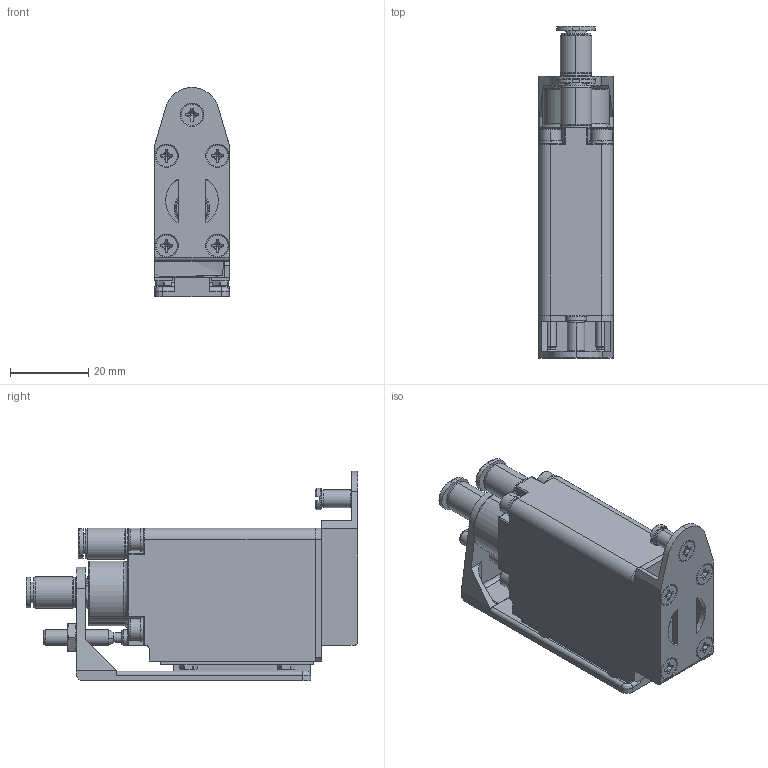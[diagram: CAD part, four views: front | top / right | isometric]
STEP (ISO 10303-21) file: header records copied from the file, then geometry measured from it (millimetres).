
FILE_DESCRIPTION (( 'STEP AP214' ), '1' );
FILE_NAME ('GT-NY03GR-4.STEP', '2019-11-27T01:14:20', ( '微软用户' ), ( '微软中国' ), 'SwSTEP 2.0', 'SolidWorks 2016', '' );
FILE_SCHEMA (( 'AUTOMOTIVE_DESIGN' ));
Length unit declared in the file: millimetre
Products named in the file (1): GT-NY03GR-4
Bounding box: 19 x 84.9 x 53.5 mm (x, y, z)
Surface area: 20120.5 mm2 (no closed solid volume)
Topology: 0 solids, 30 shells, 888 faces, 2222 edges, 1410 vertices
Faces by surface type: plane 382, cylinder 273, bspline 127, cone 56, torus 44, sphere 6
Entity records: 37754 total; most frequent: CARTESIAN_POINT 11640, ORIENTED_EDGE 4368, DIRECTION 3969, EDGE_CURVE 2198, AXIS2_PLACEMENT_3D 1510, VERTEX_POINT 1410, EDGE_LOOP 976, LINE 949
